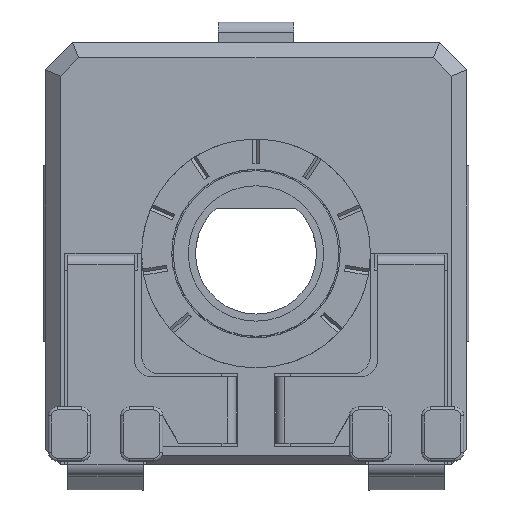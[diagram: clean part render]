
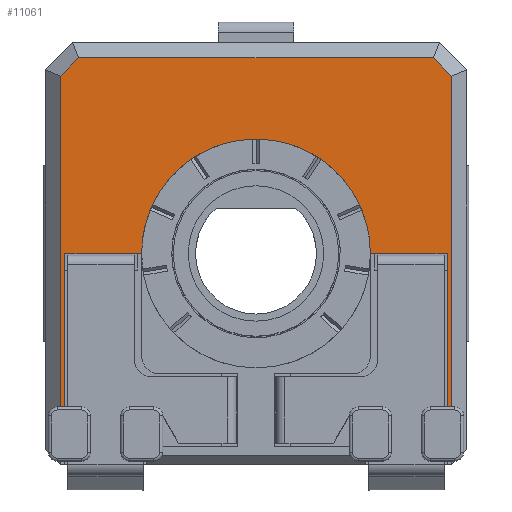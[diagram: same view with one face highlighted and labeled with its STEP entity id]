
A CAD part, top view. The second image highlights one B-rep face of the part: STEP entity #11061.
In plain terms, the highlighted planar face has unit normal (0, 0, 1).
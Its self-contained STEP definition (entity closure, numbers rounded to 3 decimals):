
#481=PLANE('',#11867);
#1018=FACE_OUTER_BOUND('',#1601,.T.);
#1601=EDGE_LOOP('',(#9635,#9636,#9637,#9638,#9639,#9640,#9641,#9642,#9643,
#9644,#9645,#9646));
#2035=LINE('',#15841,#3291);
#2103=LINE('',#16094,#3359);
#2340=LINE('',#16730,#3596);
#2343=LINE('',#16735,#3599);
#2568=LINE('',#17295,#3824);
#2601=LINE('',#17422,#3857);
#2823=LINE('',#17966,#4079);
#2824=LINE('',#17969,#4080);
#2825=LINE('',#17970,#4081);
#2826=LINE('',#17973,#4082);
#2827=LINE('',#17974,#4083);
#3291=VECTOR('',#12734,10.);
#3359=VECTOR('',#13016,10.);
#3596=VECTOR('',#13543,10.);
#3599=VECTOR('',#13548,10.);
#3824=VECTOR('',#13921,10.);
#3857=VECTOR('',#13996,10.);
#4079=VECTOR('',#14514,10.);
#4080=VECTOR('',#14517,10.);
#4081=VECTOR('',#14518,10.);
#4082=VECTOR('',#14521,10.);
#4083=VECTOR('',#14522,10.);
#4447=CIRCLE('',#11868,3.8);
#4739=VERTEX_POINT('',#15649);
#4794=VERTEX_POINT('',#15840);
#4871=VERTEX_POINT('',#16091);
#4872=VERTEX_POINT('',#16093);
#4919=VERTEX_POINT('',#16247);
#4920=VERTEX_POINT('',#16249);
#5065=VERTEX_POINT('',#16726);
#5066=VERTEX_POINT('',#16728);
#5231=VERTEX_POINT('',#17291);
#5257=VERTEX_POINT('',#17421);
#5388=VERTEX_POINT('',#17968);
#5389=VERTEX_POINT('',#17972);
#5907=EDGE_CURVE('',#4794,#4739,#2035,.T.);
#6033=EDGE_CURVE('',#4872,#4871,#2103,.T.);
#6323=EDGE_CURVE('',#5066,#5065,#2340,.T.);
#6326=EDGE_CURVE('',#5065,#4871,#2343,.T.);
#6572=EDGE_CURVE('',#4794,#5231,#2568,.T.);
#6617=EDGE_CURVE('',#5231,#5257,#2601,.T.);
#6866=EDGE_CURVE('',#5257,#5066,#2823,.T.);
#6867=EDGE_CURVE('',#4739,#5388,#2824,.T.);
#6868=EDGE_CURVE('',#5388,#4920,#2825,.T.);
#6869=EDGE_CURVE('',#4920,#4919,#4447,.T.);
#6870=EDGE_CURVE('',#4919,#5389,#2826,.T.);
#6871=EDGE_CURVE('',#5389,#4872,#2827,.T.);
#9635=ORIENTED_EDGE('',*,*,#5907,.T.);
#9636=ORIENTED_EDGE('',*,*,#6867,.T.);
#9637=ORIENTED_EDGE('',*,*,#6868,.T.);
#9638=ORIENTED_EDGE('',*,*,#6869,.T.);
#9639=ORIENTED_EDGE('',*,*,#6870,.T.);
#9640=ORIENTED_EDGE('',*,*,#6871,.T.);
#9641=ORIENTED_EDGE('',*,*,#6033,.T.);
#9642=ORIENTED_EDGE('',*,*,#6326,.F.);
#9643=ORIENTED_EDGE('',*,*,#6323,.F.);
#9644=ORIENTED_EDGE('',*,*,#6866,.F.);
#9645=ORIENTED_EDGE('',*,*,#6617,.F.);
#9646=ORIENTED_EDGE('',*,*,#6572,.F.);
#11061=ADVANCED_FACE('',(#1018),#481,.T.);
#11867=AXIS2_PLACEMENT_3D('',#17967,#14515,#14516);
#11868=AXIS2_PLACEMENT_3D('',#17971,#14519,#14520);
#12734=DIRECTION('',(1.,0.,0.));
#13016=DIRECTION('',(1.,0.,0.));
#13543=DIRECTION('',(0.707,-0.707,0.));
#13548=DIRECTION('',(0.,-1.,0.));
#13921=DIRECTION('',(0.,1.,0.));
#13996=DIRECTION('',(0.707,0.707,0.));
#14514=DIRECTION('',(1.,0.,0.));
#14515=DIRECTION('center_axis',(0.,0.,1.));
#14516=DIRECTION('ref_axis',(1.,0.,0.));
#14517=DIRECTION('',(0.,1.,0.));
#14518=DIRECTION('',(1.,0.,0.));
#14519=DIRECTION('center_axis',(0.,0.,-1.));
#14520=DIRECTION('ref_axis',(-1.,0.,0.));
#14521=DIRECTION('',(1.,0.,0.));
#14522=DIRECTION('',(0.,-1.,0.));
#15649=CARTESIAN_POINT('',(-13.817,-7.998,4.4));
#15840=CARTESIAN_POINT('',(-13.967,-7.998,4.4));
#15841=CARTESIAN_POINT('',(-10.217,-7.998,4.4));
#16091=CARTESIAN_POINT('',(-0.967,-7.998,4.4));
#16093=CARTESIAN_POINT('',(-1.117,-7.998,4.4));
#16094=CARTESIAN_POINT('',(-4.017,-7.998,4.4));
#16247=CARTESIAN_POINT('',(-3.667,-2.898,4.4));
#16249=CARTESIAN_POINT('',(-11.267,-2.898,4.4));
#16726=CARTESIAN_POINT('',(-0.967,2.994,4.4));
#16728=CARTESIAN_POINT('',(-1.574,3.602,4.4));
#16730=CARTESIAN_POINT('',(-1.271,3.298,4.4));
#16735=CARTESIAN_POINT('',(-0.967,0.602,4.4));
#17291=CARTESIAN_POINT('',(-13.967,2.994,4.4));
#17295=CARTESIAN_POINT('',(-13.967,-6.398,4.4));
#17421=CARTESIAN_POINT('',(-13.36,3.602,4.4));
#17422=CARTESIAN_POINT('',(-13.663,3.298,4.4));
#17966=CARTESIAN_POINT('',(-10.967,3.602,4.4));
#17967=CARTESIAN_POINT('Origin',(-7.467,-2.898,4.4));
#17968=CARTESIAN_POINT('',(-13.817,-2.898,4.4));
#17969=CARTESIAN_POINT('',(-13.817,-3.173,4.4));
#17970=CARTESIAN_POINT('',(-9.442,-2.898,4.4));
#17971=CARTESIAN_POINT('Origin',(-7.467,-2.898,4.4));
#17972=CARTESIAN_POINT('',(-1.117,-2.898,4.4));
#17973=CARTESIAN_POINT('',(-5.492,-2.898,4.4));
#17974=CARTESIAN_POINT('',(-1.117,-2.898,4.4));
